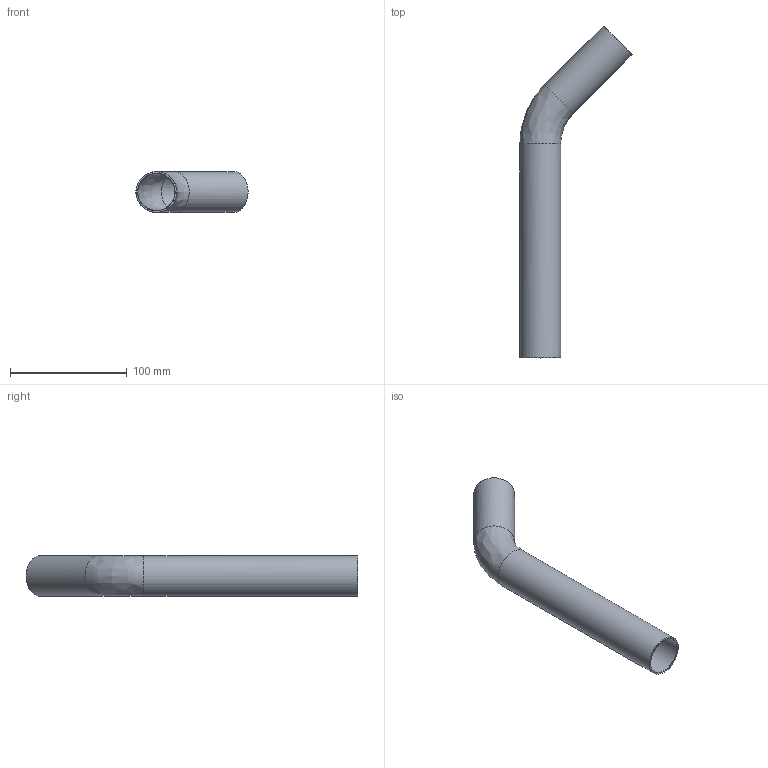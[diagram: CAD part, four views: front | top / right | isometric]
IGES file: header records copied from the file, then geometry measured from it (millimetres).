
Global section: file name: C73AG; native system: Autodesk Inventor 2023; preprocessor: unknown; author: lvalentini; date: 20230921.120729; units: millimetre
Bounding box: 96.24 x 284.76 x 35 mm (x, y, z)
Volume: 47200.3 mm3; surface area: 63012.6 mm2
Topology: 1 solids, 1 shells, 12 faces, 26 edges, 16 vertices
Faces by surface type: bspline 12
